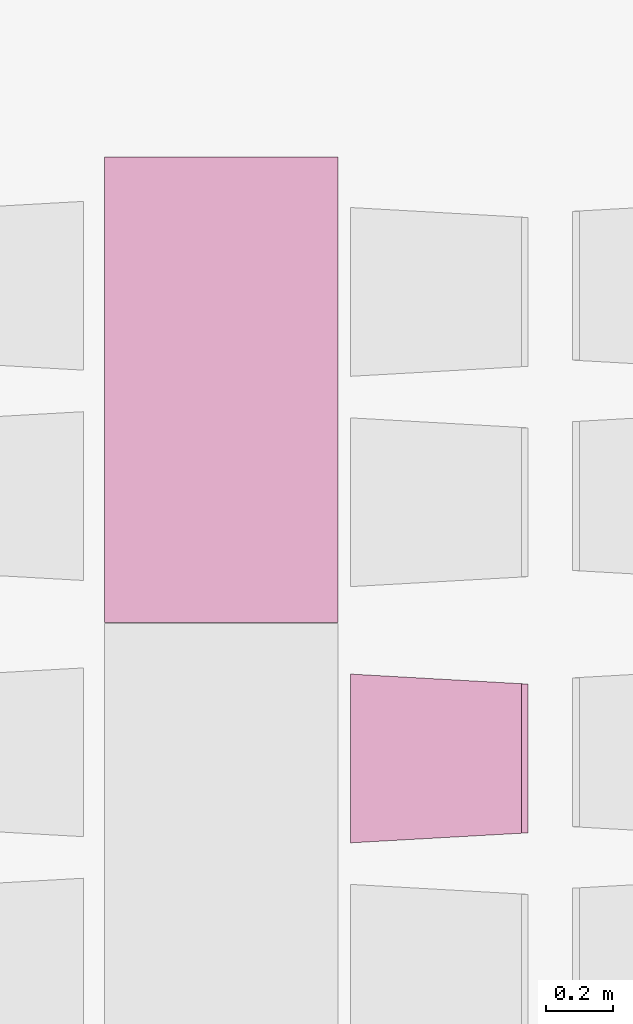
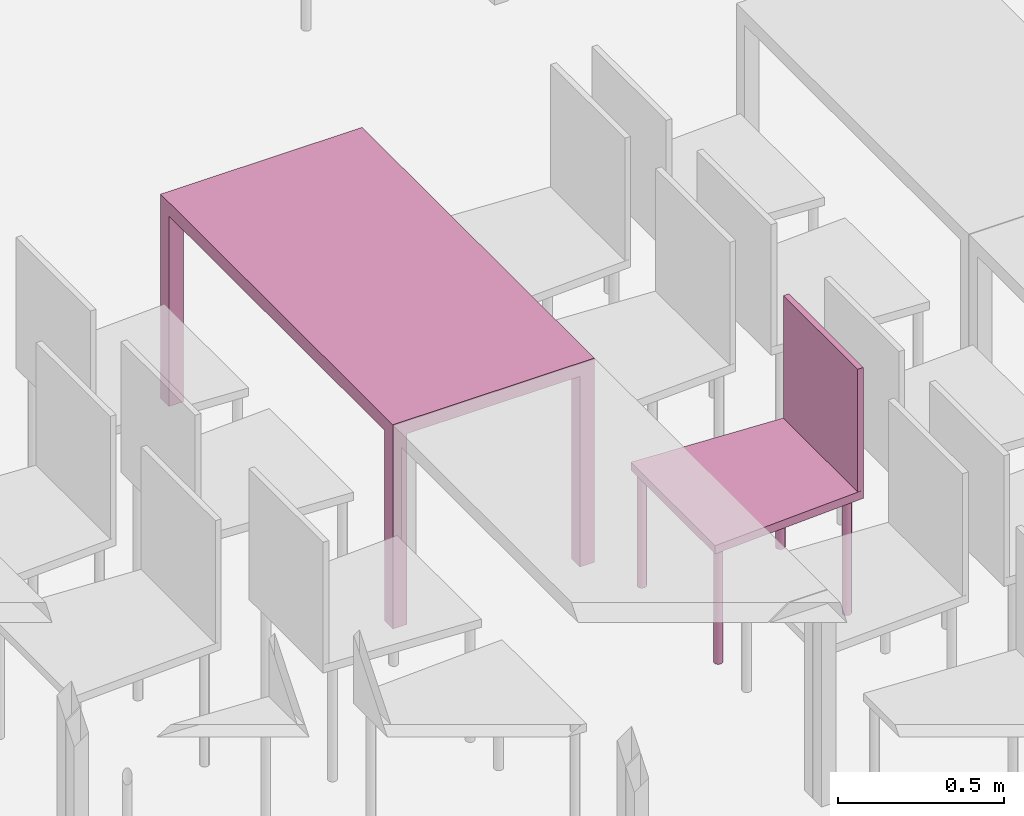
"""IFC4 building model written with IfcOpenShell, lengths in metres."""

from ifc_helpers import new_model, entity, si_unit, converted_unit, derived_unit, frame, origin, place, context, subcontext, project, spatial, faceted_brep, element, save


model = new_model("IFC4")

# Units and contexts
model_context = context("Model", 3, precision=1e-05, world=origin())
body_context = subcontext(model_context, "Body", "Model", "MODEL_VIEW")
ifc_project = project(units=[si_unit("LENGTHUNIT", "METRE"), si_unit("AREAUNIT", "SQUARE_METRE"), si_unit("VOLUMEUNIT", "CUBIC_METRE"), si_unit("MASSUNIT", "GRAM", prefix="KILO"), converted_unit("PLANEANGLEUNIT", "DEGREE", entity("IfcPlaneAngleMeasure", 0.0174532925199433), si_unit("PLANEANGLEUNIT", "RADIAN"), dimensions=[0, 0, 0, 0, 0, 0, 0]), derived_unit("THERMALTRANSMITTANCEUNIT", [(si_unit("POWERUNIT", "WATT"), 1), (si_unit("THERMODYNAMICTEMPERATUREUNIT", "KELVIN"), -1), (si_unit("LENGTHUNIT", "METRE"), -2)]), derived_unit("VOLUMETRICFLOWRATEUNIT", [(si_unit("LENGTHUNIT", "METRE"), 3), (converted_unit("TIMEUNIT", "hour", entity("IfcTimeMeasure", 3600.0), si_unit("TIMEUNIT", "SECOND"), dimensions=[0, 0, 1, 0, 0, 0, 0]), -1), (si_unit("LENGTHUNIT", "METRE"), -1)])], contexts=[model_context])

# Building, storeys
building_placement = place(None, origin())
building = spatial("IfcBuilding", under=ifc_project, at=building_placement, Name="HABITATGE PLURIFAMILIAR", CompositionType="ELEMENT")
storey_1_placement = place(building_placement, frame((0.0, 0.0, 3.35)))
storey_1 = spatial("IfcBuildingStorey", under=building, at=storey_1_placement, Name="PLANTA  ALTELL", CompositionType="ELEMENT", Elevation=3.35)
storey_2_placement = place(storey_1_placement, origin())
storey_2 = spatial("IfcBuildingStorey", under=storey_1, at=storey_2_placement, Name="NOU", CompositionType="PARTIAL")

# Furniture
furniture_1_placement = place(storey_2_placement, frame((402.051918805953, 16.0526455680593, 0.05)))
element("IfcFurniture", 1, at=furniture_1_placement, inside=storey_2, Name="Taula 140X80_PA", context=body_context, shape_type="Brep", body=[
    faceted_brep([(0.7, 0.0500000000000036, 0.0), (0.65, 0.0500000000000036, 0.0), (0.65, 0.0, 0.0), (0.7, 0.0, 0.0), (0.65, 0.0500000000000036, 0.7), (0.7, 0.0500000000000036, 0.7), (0.7, 0.0, 0.7), (0.65, 0.0, 0.7)], [[[0, 1, 2, 3]], [[4, 5, 6, 7]], [[1, 0, 5, 4]], [[2, 1, 4, 7]], [[3, 2, 7, 6]], [[0, 3, 6, 5]]], orient=[[False], [False], [False], [False], [False], [False]]),
    faceted_brep([(0.7, 1.39694592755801, 0.0), (0.65, 1.39694592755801, 0.0), (0.65, 1.34694592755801, 0.0), (0.7, 1.34694592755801, 0.0), (0.65, 1.39694592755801, 0.7), (0.7, 1.39694592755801, 0.7), (0.7, 1.34694592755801, 0.7), (0.65, 1.34694592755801, 0.7)], [[[0, 1, 2, 3]], [[4, 5, 6, 7]], [[1, 0, 5, 4]], [[2, 1, 4, 7]], [[3, 2, 7, 6]], [[0, 3, 6, 5]]], orient=[[False], [False], [False], [False], [False], [False]]),
    faceted_brep([(0.7, 1.396945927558, 0.7), (0.0, 1.396945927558, 0.7), (0.0, 0.0, 0.7), (0.7, 0.0, 0.7), (0.0, 1.396945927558, 0.75), (0.7, 1.396945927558, 0.75), (0.7, 0.0, 0.75), (0.0, 0.0, 0.75)], [[[0, 1, 2, 3]], [[4, 5, 6, 7]], [[1, 0, 5, 4]], [[2, 1, 4, 7]], [[3, 2, 7, 6]], [[0, 3, 6, 5]]], orient=[[False], [False], [False], [False], [False], [False]]),
    faceted_brep([(0.05, 0.05, 0.0), (0.0, 0.05, 0.0), (0.0, 0.0, 0.0), (0.05, 0.0, 0.0), (0.0, 0.05, 0.7), (0.05, 0.05, 0.7), (0.05, 0.0, 0.7), (0.0, 0.0, 0.7)], [[[0, 1, 2, 3]], [[4, 5, 6, 7]], [[1, 0, 5, 4]], [[2, 1, 4, 7]], [[3, 2, 7, 6]], [[0, 3, 6, 5]]], orient=[[False], [False], [False], [False], [False], [False]]),
    faceted_brep([(0.05, 1.396945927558, 0.0), (0.0, 1.396945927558, 0.0), (0.0, 1.346945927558, 0.0), (0.05, 1.346945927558, 0.0), (0.0, 1.396945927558, 0.7), (0.05, 1.396945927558, 0.7), (0.05, 1.346945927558, 0.7), (0.0, 1.346945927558, 0.7)], [[[0, 1, 2, 3]], [[4, 5, 6, 7]], [[1, 0, 5, 4]], [[2, 1, 4, 7]], [[3, 2, 7, 6]], [[0, 3, 6, 5]]], orient=[[False], [False], [False], [False], [False], [False]]),
])
furniture_2_placement = place(storey_2_placement, frame((402.789669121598, 15.3918682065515, 0.0499839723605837)))
element("IfcFurniture", 2, at=furniture_2_placement, inside=storey_2, Name="Cadira confident_PA", context=body_context, shape_type="Brep", body=[
    faceted_brep([(0.0250324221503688, 0.0391636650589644, 0.0), (0.0224394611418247, 0.0389254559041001, 0.0), (0.0199272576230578, 0.038240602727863, 0.0), (0.0175721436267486, 0.0371299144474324, 0.0), (0.0154456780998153, 0.0356271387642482, 0.0), (0.0136124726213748, 0.0337779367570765, 0.0), (0.0121282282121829, 0.0316384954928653, 0.0), (0.0110380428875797, 0.0292738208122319, 0.0), (0.010375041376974, 0.0267557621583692, 0.0), (0.0101593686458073, 0.0241608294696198, 0.0), (0.010397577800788, 0.0215678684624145, 0.0), (0.0110824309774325, 0.0190556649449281, 0.0), (0.0121931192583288, 0.0167005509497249, 0.0), (0.0136958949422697, 0.0145740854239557, 0.0), (0.0155450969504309, 0.0127408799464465, 0.0), (0.0176845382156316, 0.0112566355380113, 0.0), (0.0200492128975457, 0.010166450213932, 0.0), (0.0225672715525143, 0.00950344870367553, 0.0), (0.0251622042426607, 0.00928777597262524, 0.0), (0.0277551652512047, 0.00952598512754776, 0.0), (0.0302673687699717, 0.0102108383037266, 0.0), (0.0326224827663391, 0.0113215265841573, 0.0), (0.0347489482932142, 0.0128243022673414, 0.0), (0.0365821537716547, 0.0146735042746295, 0.0), (0.0380663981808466, 0.0168129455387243, 0.0), (0.0391565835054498, 0.019177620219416, 0.0), (0.0398195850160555, 0.0216956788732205, 0.0), (0.0400352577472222, 0.0242906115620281, 0.0), (0.0397970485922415, 0.0268835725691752, 0.0), (0.0391121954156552, 0.0293957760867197, 0.0), (0.0380015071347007, 0.0317508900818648, 0.0), (0.0364987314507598, 0.0338773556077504, 0.0), (0.0346495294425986, 0.0357105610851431, 0.0), (0.0325100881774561, 0.0371948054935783, 0.0), (0.030145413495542, 0.0382849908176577, 0.0), (0.0276273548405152, 0.0389479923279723, 0.0), (0.0250324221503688, 0.0391636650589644, 0.448281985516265), (0.0276273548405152, 0.0389479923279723, 0.448281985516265), (0.030145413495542, 0.0382849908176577, 0.448281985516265), (0.0325100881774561, 0.0371948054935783, 0.448281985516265), (0.0346495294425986, 0.0357105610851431, 0.448281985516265), (0.0364987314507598, 0.0338773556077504, 0.448281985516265), (0.0380015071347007, 0.0317508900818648, 0.448281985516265), (0.0391121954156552, 0.0293957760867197, 0.448281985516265), (0.0397970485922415, 0.0268835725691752, 0.448281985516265), (0.0400352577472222, 0.0242906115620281, 0.448281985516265), (0.0398195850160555, 0.0216956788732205, 0.448281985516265), (0.0391565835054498, 0.019177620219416, 0.448281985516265), (0.0380663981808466, 0.0168129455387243, 0.448281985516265), (0.0365821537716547, 0.0146735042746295, 0.448281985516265), (0.0347489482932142, 0.0128243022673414, 0.448281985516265), (0.0326224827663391, 0.0113215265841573, 0.448281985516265), (0.0302673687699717, 0.0102108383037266, 0.448281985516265), (0.0277551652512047, 0.00952598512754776, 0.448281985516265), (0.0251622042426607, 0.00928777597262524, 0.448281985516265), (0.0225672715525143, 0.00950344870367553, 0.448281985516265), (0.0200492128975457, 0.010166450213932, 0.448281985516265), (0.0176845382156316, 0.0112566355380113, 0.448281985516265), (0.0155450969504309, 0.0127408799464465, 0.448281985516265), (0.0136958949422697, 0.0145740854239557, 0.448281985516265), (0.0121931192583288, 0.0167005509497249, 0.448281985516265), (0.0110824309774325, 0.0190556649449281, 0.448281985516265), (0.010397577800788, 0.0215678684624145, 0.448281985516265), (0.0101593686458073, 0.0241608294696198, 0.448281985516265), (0.010375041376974, 0.0267557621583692, 0.448281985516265), (0.0110380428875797, 0.0292738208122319, 0.448281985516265), (0.0121282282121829, 0.0316384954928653, 0.448281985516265), (0.0136124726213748, 0.0337779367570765, 0.448281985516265), (0.0154456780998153, 0.0356271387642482, 0.448281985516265), (0.0175721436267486, 0.0371299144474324, 0.448281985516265), (0.0199272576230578, 0.038240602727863, 0.448281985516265), (0.0224394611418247, 0.0389254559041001, 0.448281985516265)], [[[0, 1, 2, 3, 4, 5, 6, 7, 8, 9, 10, 11, 12, 13, 14, 15, 16, 17, 18, 19, 20, 21, 22, 23, 24, 25, 26, 27, 28, 29, 30, 31, 32, 33, 34, 35]], [[36, 37, 38, 39, 40, 41, 42, 43, 44, 45, 46, 47, 48, 49, 50, 51, 52, 53, 54, 55, 56, 57, 58, 59, 60, 61, 62, 63, 64, 65, 66, 67, 68, 69, 70, 71]], [[35, 37, 36, 0]], [[34, 38, 37, 35]], [[33, 39, 38, 34]], [[32, 40, 39, 33]], [[31, 41, 40, 32]], [[30, 42, 41, 31]], [[29, 43, 42, 30]], [[28, 44, 43, 29]], [[27, 45, 44, 28]], [[26, 46, 45, 27]], [[25, 47, 46, 26]], [[24, 48, 47, 25]], [[23, 49, 48, 24]], [[22, 50, 49, 23]], [[21, 51, 50, 22]], [[20, 52, 51, 21]], [[19, 53, 52, 20]], [[18, 54, 53, 19]], [[17, 55, 54, 18]], [[16, 56, 55, 17]], [[15, 57, 56, 16]], [[14, 58, 57, 15]], [[13, 59, 58, 14]], [[12, 60, 59, 13]], [[11, 61, 60, 12]], [[10, 62, 61, 11]], [[9, 63, 62, 10]], [[8, 64, 63, 9]], [[7, 65, 64, 8]], [[6, 66, 65, 7]], [[5, 67, 66, 6]], [[4, 68, 67, 5]], [[3, 69, 68, 4]], [[2, 70, 69, 3]], [[1, 71, 70, 2]], [[0, 36, 71, 1]]], orient=[[False], [False], [False], [False], [False], [False], [False], [False], [False], [False], [False], [False], [False], [False], [False], [False], [False], [False], [False], [False], [False], [False], [False], [False], [False], [False], [False], [False], [False], [False], [False], [False], [False], [False], [False], [False], [False], [False]]),
    faceted_brep([(0.487439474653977, 0.0668016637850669, 0.0), (0.484846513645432, 0.0665634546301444, 0.0), (0.482334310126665, 0.0658786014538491, 0.0), (0.479979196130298, 0.0647679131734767, 0.0), (0.477852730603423, 0.0632651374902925, 0.0), (0.476019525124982, 0.0614159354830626, 0.0), (0.474535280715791, 0.0592764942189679, 0.0), (0.473445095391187, 0.056911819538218, 0.0), (0.472782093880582, 0.0543937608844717, 0.0), (0.472566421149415, 0.0517988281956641, 0.0), (0.472804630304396, 0.0492058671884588, 0.0), (0.473489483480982, 0.0466936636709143, 0.0), (0.474600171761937, 0.0443385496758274, 0.0), (0.476102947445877, 0.0422120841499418, 0.0), (0.477952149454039, 0.0403788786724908, 0.0), (0.480091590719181, 0.0388946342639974, 0.0), (0.482456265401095, 0.0378044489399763, 0.0), (0.484974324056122, 0.0371414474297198, 0.0), (0.487569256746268, 0.0369257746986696, 0.0), (0.490162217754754, 0.0371639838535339, 0.0), (0.492674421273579, 0.0378488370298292, 0.0), (0.495029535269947, 0.0389595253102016, 0.0), (0.497156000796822, 0.0404623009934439, 0.0), (0.498989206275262, 0.0423115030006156, 0.0), (0.500473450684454, 0.0444509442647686, 0.0), (0.501563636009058, 0.0468156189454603, 0.0), (0.502226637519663, 0.0493336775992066, 0.0), (0.50244231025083, 0.0519286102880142, 0.0), (0.502204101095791, 0.0545215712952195, 0.0), (0.501519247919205, 0.057033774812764, 0.0), (0.500408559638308, 0.0593888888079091, 0.0), (0.498905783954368, 0.0615153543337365, 0.0), (0.497056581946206, 0.0633485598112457, 0.0), (0.494917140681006, 0.0648328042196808, 0.0), (0.492552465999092, 0.065922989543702, 0.0), (0.490034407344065, 0.0665859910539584, 0.0), (0.487439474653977, 0.0668016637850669, 0.448281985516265), (0.490034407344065, 0.0665859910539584, 0.448281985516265), (0.492552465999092, 0.065922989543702, 0.448281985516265), (0.494917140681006, 0.0648328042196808, 0.448281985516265), (0.497056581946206, 0.0633485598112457, 0.448281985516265), (0.498905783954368, 0.0615153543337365, 0.448281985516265), (0.500408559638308, 0.0593888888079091, 0.448281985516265), (0.501519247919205, 0.057033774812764, 0.448281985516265), (0.502204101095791, 0.0545215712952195, 0.448281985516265), (0.50244231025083, 0.0519286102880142, 0.448281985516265), (0.502226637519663, 0.0493336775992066, 0.448281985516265), (0.501563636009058, 0.0468156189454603, 0.448281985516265), (0.500473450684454, 0.0444509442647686, 0.448281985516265), (0.498989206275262, 0.0423115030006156, 0.448281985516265), (0.497156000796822, 0.0404623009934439, 0.448281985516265), (0.495029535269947, 0.0389595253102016, 0.448281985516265), (0.492674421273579, 0.0378488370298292, 0.448281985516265), (0.490162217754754, 0.0371639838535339, 0.448281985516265), (0.487569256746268, 0.0369257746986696, 0.448281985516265), (0.484974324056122, 0.0371414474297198, 0.448281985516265), (0.482456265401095, 0.0378044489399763, 0.448281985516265), (0.480091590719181, 0.0388946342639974, 0.448281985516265), (0.477952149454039, 0.0403788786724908, 0.448281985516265), (0.476102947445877, 0.0422120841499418, 0.448281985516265), (0.474600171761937, 0.0443385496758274, 0.448281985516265), (0.473489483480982, 0.0466936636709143, 0.448281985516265), (0.472804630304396, 0.0492058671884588, 0.448281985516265), (0.472566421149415, 0.0517988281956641, 0.448281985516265), (0.472782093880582, 0.0543937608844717, 0.448281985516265), (0.473445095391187, 0.056911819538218, 0.448281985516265), (0.474535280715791, 0.0592764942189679, 0.448281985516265), (0.476019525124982, 0.0614159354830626, 0.448281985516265), (0.477852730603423, 0.0632651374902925, 0.448281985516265), (0.479979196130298, 0.0647679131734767, 0.448281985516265), (0.482334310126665, 0.0658786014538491, 0.448281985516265), (0.484846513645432, 0.0665634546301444, 0.448281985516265)], [[[0, 1, 2, 3, 4, 5, 6, 7, 8, 9, 10, 11, 12, 13, 14, 15, 16, 17, 18, 19, 20, 21, 22, 23, 24, 25, 26, 27, 28, 29, 30, 31, 32, 33, 34, 35]], [[36, 37, 38, 39, 40, 41, 42, 43, 44, 45, 46, 47, 48, 49, 50, 51, 52, 53, 54, 55, 56, 57, 58, 59, 60, 61, 62, 63, 64, 65, 66, 67, 68, 69, 70, 71]], [[35, 37, 36, 0]], [[34, 38, 37, 35]], [[33, 39, 38, 34]], [[32, 40, 39, 33]], [[31, 41, 40, 32]], [[30, 42, 41, 31]], [[29, 43, 42, 30]], [[28, 44, 43, 29]], [[27, 45, 44, 28]], [[26, 46, 45, 27]], [[25, 47, 46, 26]], [[24, 48, 47, 25]], [[23, 49, 48, 24]], [[22, 50, 49, 23]], [[21, 51, 50, 22]], [[20, 52, 51, 21]], [[19, 53, 52, 20]], [[18, 54, 53, 19]], [[17, 55, 54, 18]], [[16, 56, 55, 17]], [[15, 57, 56, 16]], [[14, 58, 57, 15]], [[13, 59, 58, 14]], [[12, 60, 59, 13]], [[11, 61, 60, 12]], [[10, 62, 61, 11]], [[9, 63, 62, 10]], [[8, 64, 63, 9]], [[7, 65, 64, 8]], [[6, 66, 65, 7]], [[5, 67, 66, 6]], [[4, 68, 67, 5]], [[3, 69, 68, 4]], [[2, 70, 69, 3]], [[1, 71, 70, 2]], [[0, 36, 71, 1]]], orient=[[False], [False], [False], [False], [False], [False], [False], [False], [False], [False], [False], [False], [False], [False], [False], [False], [False], [False], [False], [False], [False], [False], [False], [False], [False], [False], [False], [False], [False], [False], [False], [False], [False], [False], [False], [False], [False], [False]]),
    faceted_brep([(0.0250324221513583, 0.499163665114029, 0.0), (0.0224394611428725, 0.498925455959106, 0.0), (0.0199272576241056, 0.498240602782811, 0.0), (0.0175721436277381, 0.497129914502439, 0.0), (0.0154456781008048, 0.495627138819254, 0.0), (0.0136124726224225, 0.493777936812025, 0.0), (0.0121282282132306, 0.491638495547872, 0.0), (0.0110380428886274, 0.489273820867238, 0.0), (0.0103750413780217, 0.486755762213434, 0.0), (0.0101593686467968, 0.484160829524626, 0.0), (0.0103975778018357, 0.481567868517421, 0.0), (0.0110824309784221, 0.479055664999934, 0.0), (0.0121931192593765, 0.476700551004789, 0.0), (0.0136958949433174, 0.474574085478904, 0.0), (0.0155450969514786, 0.472740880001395, 0.0), (0.0176845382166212, 0.471256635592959, 0.0), (0.0200492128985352, 0.470166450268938, 0.0), (0.022567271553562, 0.469503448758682, 0.0), (0.0251622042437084, 0.469287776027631, 0.0), (0.0277551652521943, 0.469525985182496, 0.0), (0.0302673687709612, 0.470210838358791, 0.0), (0.0326224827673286, 0.471321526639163, 0.0), (0.0347489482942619, 0.472824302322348, 0.0), (0.0365821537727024, 0.474673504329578, 0.0), (0.0380663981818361, 0.476812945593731, 0.0), (0.0391565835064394, 0.479177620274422, 0.0), (0.039819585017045, 0.481695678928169, 0.0), (0.0400352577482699, 0.484290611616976, 0.0), (0.039797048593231, 0.486883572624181, 0.0), (0.0391121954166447, 0.489395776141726, 0.0), (0.0380015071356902, 0.491750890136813, 0.0), (0.0364987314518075, 0.493877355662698, 0.0), (0.0346495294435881, 0.495710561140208, 0.0), (0.0325100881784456, 0.497194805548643, 0.0), (0.0301454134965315, 0.498284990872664, 0.0), (0.0276273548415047, 0.49894799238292, 0.0), (0.0250324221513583, 0.499163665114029, 0.448281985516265), (0.0276273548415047, 0.49894799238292, 0.448281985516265), (0.0301454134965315, 0.498284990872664, 0.448281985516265), (0.0325100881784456, 0.497194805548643, 0.448281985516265), (0.0346495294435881, 0.495710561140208, 0.448281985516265), (0.0364987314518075, 0.493877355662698, 0.448281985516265), (0.0380015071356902, 0.491750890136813, 0.448281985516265), (0.0391121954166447, 0.489395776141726, 0.448281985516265), (0.039797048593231, 0.486883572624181, 0.448281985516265), (0.0400352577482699, 0.484290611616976, 0.448281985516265), (0.039819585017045, 0.481695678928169, 0.448281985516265), (0.0391565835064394, 0.479177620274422, 0.448281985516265), (0.0380663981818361, 0.476812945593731, 0.448281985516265), (0.0365821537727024, 0.474673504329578, 0.448281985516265), (0.0347489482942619, 0.472824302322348, 0.448281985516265), (0.0326224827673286, 0.471321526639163, 0.448281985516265), (0.0302673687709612, 0.470210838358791, 0.448281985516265), (0.0277551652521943, 0.469525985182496, 0.448281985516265), (0.0251622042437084, 0.469287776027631, 0.448281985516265), (0.022567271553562, 0.469503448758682, 0.448281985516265), (0.0200492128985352, 0.470166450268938, 0.448281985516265), (0.0176845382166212, 0.471256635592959, 0.448281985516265), (0.0155450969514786, 0.472740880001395, 0.448281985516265), (0.0136958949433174, 0.474574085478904, 0.448281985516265), (0.0121931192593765, 0.476700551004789, 0.448281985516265), (0.0110824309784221, 0.479055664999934, 0.448281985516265), (0.0103975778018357, 0.481567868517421, 0.448281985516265), (0.0101593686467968, 0.484160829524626, 0.448281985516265), (0.0103750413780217, 0.486755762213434, 0.448281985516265), (0.0110380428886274, 0.489273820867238, 0.448281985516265), (0.0121282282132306, 0.491638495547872, 0.448281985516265), (0.0136124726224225, 0.493777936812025, 0.448281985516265), (0.0154456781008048, 0.495627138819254, 0.448281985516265), (0.0175721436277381, 0.497129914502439, 0.448281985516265), (0.0199272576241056, 0.498240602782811, 0.448281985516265), (0.0224394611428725, 0.498925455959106, 0.448281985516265)], [[[0, 1, 2, 3, 4, 5, 6, 7, 8, 9, 10, 11, 12, 13, 14, 15, 16, 17, 18, 19, 20, 21, 22, 23, 24, 25, 26, 27, 28, 29, 30, 31, 32, 33, 34, 35]], [[36, 37, 38, 39, 40, 41, 42, 43, 44, 45, 46, 47, 48, 49, 50, 51, 52, 53, 54, 55, 56, 57, 58, 59, 60, 61, 62, 63, 64, 65, 66, 67, 68, 69, 70, 71]], [[35, 37, 36, 0]], [[34, 38, 37, 35]], [[33, 39, 38, 34]], [[32, 40, 39, 33]], [[31, 41, 40, 32]], [[30, 42, 41, 31]], [[29, 43, 42, 30]], [[28, 44, 43, 29]], [[27, 45, 44, 28]], [[26, 46, 45, 27]], [[25, 47, 46, 26]], [[24, 48, 47, 25]], [[23, 49, 48, 24]], [[22, 50, 49, 23]], [[21, 51, 50, 22]], [[20, 52, 51, 21]], [[19, 53, 52, 20]], [[18, 54, 53, 19]], [[17, 55, 54, 18]], [[16, 56, 55, 17]], [[15, 57, 56, 16]], [[14, 58, 57, 15]], [[13, 59, 58, 14]], [[12, 60, 59, 13]], [[11, 61, 60, 12]], [[10, 62, 61, 11]], [[9, 63, 62, 10]], [[8, 64, 63, 9]], [[7, 65, 64, 8]], [[6, 66, 65, 7]], [[5, 67, 66, 6]], [[4, 68, 67, 5]], [[3, 69, 68, 4]], [[2, 70, 69, 3]], [[1, 71, 70, 2]], [[0, 36, 71, 1]]], orient=[[False], [False], [False], [False], [False], [False], [False], [False], [False], [False], [False], [False], [False], [False], [False], [False], [False], [False], [False], [False], [False], [False], [False], [False], [False], [False], [False], [False], [False], [False], [False], [False], [False], [False], [False], [False], [False], [False]]),
    faceted_brep([(0.48743947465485, 0.466801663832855, 0.0), (0.484846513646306, 0.466563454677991, 0.0), (0.482334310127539, 0.465878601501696, 0.0), (0.479979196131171, 0.464767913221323, 0.0), (0.477852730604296, 0.463265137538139, 0.0), (0.476019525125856, 0.461415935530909, 0.0), (0.474535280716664, 0.459276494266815, 0.0), (0.47344509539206, 0.456911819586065, 0.0), (0.472782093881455, 0.454393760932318, 0.0), (0.472566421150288, 0.451798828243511, 0.0), (0.472804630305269, 0.449205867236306, 0.0), (0.473489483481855, 0.446693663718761, 0.0), (0.47460017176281, 0.444338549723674, 0.0), (0.47610294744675, 0.442212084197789, 0.0), (0.477952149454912, 0.440378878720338, 0.0), (0.480091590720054, 0.438894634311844, 0.0), (0.482456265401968, 0.437804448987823, 0.0), (0.484974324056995, 0.437141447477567, 0.0), (0.487569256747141, 0.436925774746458, 0.0), (0.490162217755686, 0.437163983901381, 0.0), (0.492674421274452, 0.437848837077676, 0.0), (0.495029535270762, 0.438959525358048, 0.0), (0.497156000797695, 0.440462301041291, 0.0), (0.498989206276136, 0.442311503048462, 0.0), (0.500473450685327, 0.444450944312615, 0.0), (0.501563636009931, 0.446815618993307, 0.0), (0.502226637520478, 0.449333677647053, 0.0), (0.502442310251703, 0.451928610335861, 0.0), (0.502204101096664, 0.454521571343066, 0.0), (0.501519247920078, 0.457033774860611, 0.0), (0.500408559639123, 0.459388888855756, 0.0), (0.498905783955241, 0.461515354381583, 0.0), (0.497056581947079, 0.463348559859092, 0.0), (0.494917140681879, 0.464832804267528, 0.0), (0.492552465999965, 0.465922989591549, 0.0), (0.490034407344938, 0.466585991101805, 0.0), (0.48743947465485, 0.466801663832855, 0.448281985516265), (0.490034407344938, 0.466585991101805, 0.448281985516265), (0.492552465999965, 0.465922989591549, 0.448281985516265), (0.494917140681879, 0.464832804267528, 0.448281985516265), (0.497056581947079, 0.463348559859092, 0.448281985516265), (0.498905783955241, 0.461515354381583, 0.448281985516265), (0.500408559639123, 0.459388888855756, 0.448281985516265), (0.501519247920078, 0.457033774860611, 0.448281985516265), (0.502204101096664, 0.454521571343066, 0.448281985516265), (0.502442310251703, 0.451928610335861, 0.448281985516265), (0.502226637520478, 0.449333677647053, 0.448281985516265), (0.501563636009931, 0.446815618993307, 0.448281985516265), (0.500473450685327, 0.444450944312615, 0.448281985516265), (0.498989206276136, 0.442311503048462, 0.448281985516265), (0.497156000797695, 0.440462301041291, 0.448281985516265), (0.495029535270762, 0.438959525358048, 0.448281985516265), (0.492674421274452, 0.437848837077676, 0.448281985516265), (0.490162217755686, 0.437163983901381, 0.448281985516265), (0.487569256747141, 0.436925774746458, 0.448281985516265), (0.484974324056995, 0.437141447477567, 0.448281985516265), (0.482456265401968, 0.437804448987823, 0.448281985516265), (0.480091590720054, 0.438894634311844, 0.448281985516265), (0.477952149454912, 0.440378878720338, 0.448281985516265), (0.47610294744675, 0.442212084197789, 0.448281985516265), (0.47460017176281, 0.444338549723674, 0.448281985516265), (0.473489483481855, 0.446693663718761, 0.448281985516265), (0.472804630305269, 0.449205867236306, 0.448281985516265), (0.472566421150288, 0.451798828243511, 0.448281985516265), (0.472782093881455, 0.454393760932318, 0.448281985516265), (0.47344509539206, 0.456911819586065, 0.448281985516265), (0.474535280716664, 0.459276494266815, 0.448281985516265), (0.476019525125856, 0.461415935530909, 0.448281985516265), (0.477852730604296, 0.463265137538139, 0.448281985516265), (0.479979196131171, 0.464767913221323, 0.448281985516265), (0.482334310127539, 0.465878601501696, 0.448281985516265), (0.484846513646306, 0.466563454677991, 0.448281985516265)], [[[0, 1, 2, 3, 4, 5, 6, 7, 8, 9, 10, 11, 12, 13, 14, 15, 16, 17, 18, 19, 20, 21, 22, 23, 24, 25, 26, 27, 28, 29, 30, 31, 32, 33, 34, 35]], [[36, 37, 38, 39, 40, 41, 42, 43, 44, 45, 46, 47, 48, 49, 50, 51, 52, 53, 54, 55, 56, 57, 58, 59, 60, 61, 62, 63, 64, 65, 66, 67, 68, 69, 70, 71]], [[35, 37, 36, 0]], [[34, 38, 37, 35]], [[33, 39, 38, 34]], [[32, 40, 39, 33]], [[31, 41, 40, 32]], [[30, 42, 41, 31]], [[29, 43, 42, 30]], [[28, 44, 43, 29]], [[27, 45, 44, 28]], [[26, 46, 45, 27]], [[25, 47, 46, 26]], [[24, 48, 47, 25]], [[23, 49, 48, 24]], [[22, 50, 49, 23]], [[21, 51, 50, 22]], [[20, 52, 51, 21]], [[19, 53, 52, 20]], [[18, 54, 53, 19]], [[17, 55, 54, 18]], [[16, 56, 55, 17]], [[15, 57, 56, 16]], [[14, 58, 57, 15]], [[13, 59, 58, 14]], [[12, 60, 59, 13]], [[11, 61, 60, 12]], [[10, 62, 61, 11]], [[9, 63, 62, 10]], [[8, 64, 63, 9]], [[7, 65, 64, 8]], [[6, 66, 65, 7]], [[5, 67, 66, 6]], [[4, 68, 67, 5]], [[3, 69, 68, 4]], [[2, 70, 69, 3]], [[1, 71, 70, 2]], [[0, 36, 71, 1]]], orient=[[False], [False], [False], [False], [False], [False], [False], [False], [False], [False], [False], [False], [False], [False], [False], [False], [False], [False], [False], [False], [False], [False], [False], [False], [False], [False], [False], [False], [False], [False], [False], [False], [False], [False], [False], [False], [False], [False]]),
    faceted_brep([(0.532607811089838, 0.476514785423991, 0.418281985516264), (0.0, 0.506514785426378, 0.418281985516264), (0.0, 0.0, 0.418281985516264), (0.532607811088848, 0.0300000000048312, 0.418281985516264), (0.0, 0.506514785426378, 0.448281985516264), (0.532607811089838, 0.476514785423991, 0.448281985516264), (0.532607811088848, 0.0300000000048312, 0.448281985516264), (0.0, 0.0, 0.448281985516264)], [[[0, 1, 2, 3]], [[4, 5, 6, 7]], [[1, 0, 5, 4]], [[2, 1, 4, 7]], [[3, 2, 7, 6]], [[0, 3, 6, 5]]], orient=[[False], [False], [False], [False], [False], [False]]),
    faceted_brep([(0.512607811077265, 0.476514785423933, 0.448281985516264), (0.512607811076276, 0.0300000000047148, 0.448281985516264), (0.53260781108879, 0.0300000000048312, 0.448281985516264), (0.53260781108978, 0.476514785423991, 0.448281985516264), (0.512607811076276, 0.0300000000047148, 0.898281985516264), (0.512607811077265, 0.476514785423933, 0.898281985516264), (0.53260781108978, 0.476514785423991, 0.898281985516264), (0.53260781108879, 0.0300000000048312, 0.898281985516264)], [[[0, 1, 2, 3]], [[4, 5, 6, 7]], [[1, 0, 5, 4]], [[2, 1, 4, 7]], [[3, 2, 7, 6]], [[0, 3, 6, 5]]], orient=[[False], [False], [False], [False], [False], [False]]),
])

save(model, "model.ifc")
